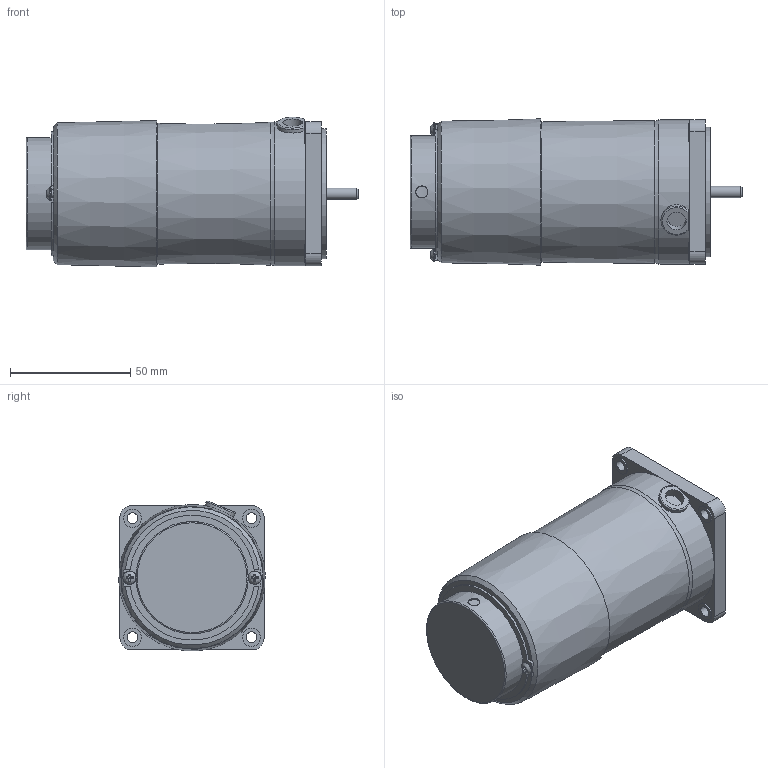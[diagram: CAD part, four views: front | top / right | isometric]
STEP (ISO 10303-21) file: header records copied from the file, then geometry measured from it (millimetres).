
FILE_DESCRIPTION(/* description */ (''),/* implementation_level */ '2;1');
FILE_NAME(/* name */ 'Y:\제품연구개발\3. 도면\3. 고객배포용\3D_홈페이지용\01-1 Standard AC SG Series\05-3 SPEED CONTROL ELECTROMAGNETIC BRAKE MOTOR(ES)\SG6R06_-ES12\SG6R06G-ES.stp',/* time_stamp */ '2023-11-28T11:51:36+09:00',/* author */ ('shyi1037'),/* organization */ (''),/* preprocessor_version */ 'ST-DEVELOPER v18.1',/* originating_system */ 'Autodesk Inventor 2022',/* authorisation */ '');
FILE_SCHEMA (('AUTOMOTIVE_DESIGN { 1 0 10303 214 3 1 1 }'));
Length unit declared in the file: millimetre
Products named in the file (1): SG6R06G-ES
Bounding box: 138.1 x 60.85 x 62.34 mm (x, y, z)
Volume: 333567.7 mm3; surface area: 32736.4 mm2
Topology: 1 solids, 3 shells, 154 faces, 405 edges, 264 vertices
Faces by surface type: plane 91, cylinder 49, torus 7, cone 5, bspline 2
Full cylindrical faces by diameter (mm): 3 x2, 4.5 x4, 4.76 x1, 5 x1, 7.5 x4, 8 x1, 10.1 x1, 25 x1, 46.7 x1, 54 x1, 58.5 x1, 60 x1
Entity records: 5288 total; most frequent: CARTESIAN_POINT 1316, ORIENTED_EDGE 810, DIRECTION 809, EDGE_CURVE 405, AXIS2_PLACEMENT_3D 297, VERTEX_POINT 264, LINE 215, VECTOR 215
